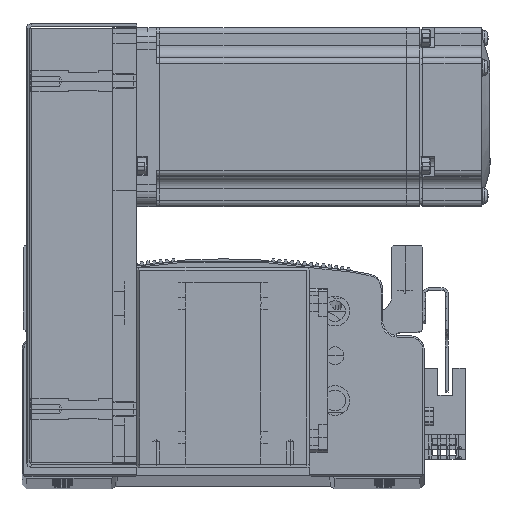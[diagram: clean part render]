
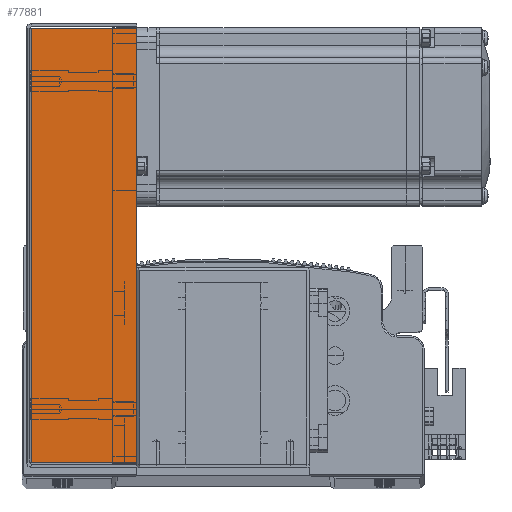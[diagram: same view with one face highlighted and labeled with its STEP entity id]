
A CAD part, top view. The second image highlights one B-rep face of the part: STEP entity #77881.
In plain terms, the highlighted planar face has unit normal (0, 0, 1).
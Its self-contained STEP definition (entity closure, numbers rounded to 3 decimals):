
#71 = DIRECTION ( 'NONE',  ( 0., 0., -1. ) ) ;
#74 = CARTESIAN_POINT ( 'NONE',  ( 0., 0., 34.5 ) ) ;
#80 = PLANE ( 'NONE',  #26867 ) ;
#88 = DIRECTION ( 'NONE',  ( -1., 0., 0. ) ) ;
#3659 = CARTESIAN_POINT ( 'NONE',  ( -72.793, 0.737, 34.5 ) ) ;
#5690 = FACE_OUTER_BOUND ( 'NONE', #52884, .T. ) ;
#10187 = LINE ( 'NONE', #21161, #10236 ) ;
#10236 = VECTOR ( 'NONE', #21135, 1000. ) ;
#10261 = VECTOR ( 'NONE', #21252, 1000. ) ;
#10288 = LINE ( 'NONE', #21287, #10261 ) ;
#10323 = LINE ( 'NONE', #21376, #10346 ) ;
#10327 = LINE ( 'NONE', #21300, #10338 ) ;
#10338 = VECTOR ( 'NONE', #21383, 1000. ) ;
#10346 = VECTOR ( 'NONE', #21353, 1000. ) ;
#21135 = DIRECTION ( 'NONE',  ( 0., 1., 0. ) ) ;
#21161 = CARTESIAN_POINT ( 'NONE',  ( -72.793, 0., 34.5 ) ) ;
#21252 = DIRECTION ( 'NONE',  ( -1., 0., 0. ) ) ;
#21287 = CARTESIAN_POINT ( 'NONE',  ( -74.5, 0.737, 34.5 ) ) ;
#21300 = CARTESIAN_POINT ( 'NONE',  ( 0., 36., 34.5 ) ) ;
#21353 = DIRECTION ( 'NONE',  ( 0., 1., 0. ) ) ;
#21376 = CARTESIAN_POINT ( 'NONE',  ( 72.793, 0., 34.5 ) ) ;
#21383 = DIRECTION ( 'NONE',  ( -1., 0., 0. ) ) ;
#25038 = CARTESIAN_POINT ( 'NONE',  ( -72.793, 36., 34.5 ) ) ;
#25068 = CARTESIAN_POINT ( 'NONE',  ( 72.793, 36., 34.5 ) ) ;
#26867 = AXIS2_PLACEMENT_3D ( 'NONE', #74, #71, #88 ) ;
#35937 = VERTEX_POINT ( 'NONE', #66224 ) ;
#36393 = VERTEX_POINT ( 'NONE', #3659 ) ;
#51072 = ORIENTED_EDGE ( 'NONE', *, *, #72051, .F. ) ;
#51158 = ORIENTED_EDGE ( 'NONE', *, *, #72085, .T. ) ;
#51160 = ORIENTED_EDGE ( 'NONE', *, *, #72092, .T. ) ;
#51162 = ORIENTED_EDGE ( 'NONE', *, *, #71922, .F. ) ;
#51338 = VERTEX_POINT ( 'NONE', #25068 ) ;
#51346 = VERTEX_POINT ( 'NONE', #25038 ) ;
#52884 = EDGE_LOOP ( 'NONE', ( #51072, #51160, #51158, #51162 ) ) ;
#66224 = CARTESIAN_POINT ( 'NONE',  ( 72.793, 0.737, 34.5 ) ) ;
#71922 = EDGE_CURVE ( 'NONE', #36393, #51346, #10187, .T. ) ;
#72051 = EDGE_CURVE ( 'NONE', #35937, #36393, #10288, .T. ) ;
#72085 = EDGE_CURVE ( 'NONE', #51338, #51346, #10327, .T. ) ;
#72092 = EDGE_CURVE ( 'NONE', #35937, #51338, #10323, .T. ) ;
#77881 = ADVANCED_FACE ( 'NONE', ( #5690 ), #80, .F. ) ;
